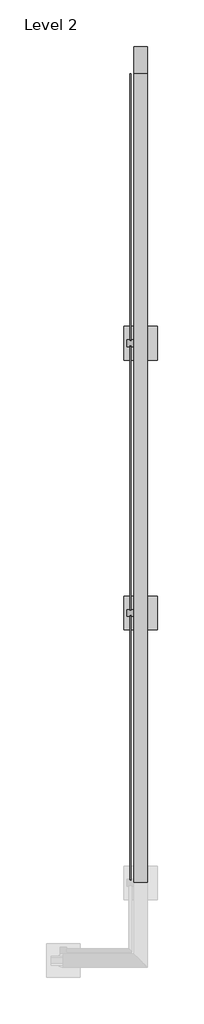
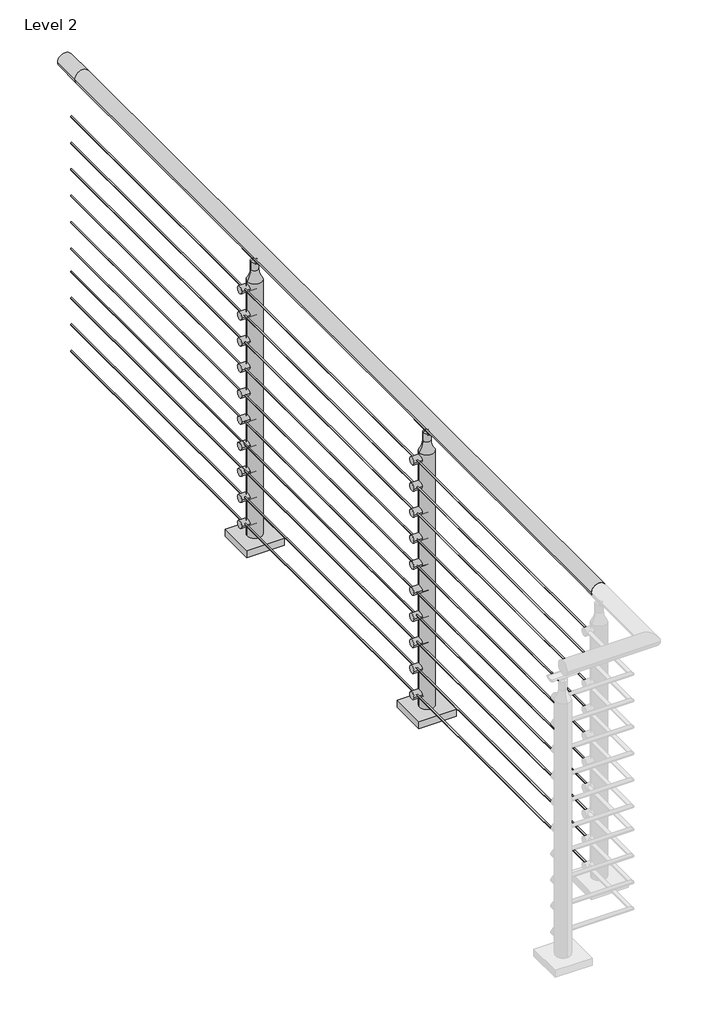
# One storey, part 5 of 21: 1 railing.
"""IFC4 building model written with IfcOpenShell, lengths in millimetres."""

from ifc_helpers import new_model, si_unit, point, frame, frame_2d, origin, place, context, project, spatial, polyline, circle_curve, ellipse_curve, trimmed, segment, composite_curve, outline, extrude, element, save
from ifc_brep_helpers import plane_surface, cylinder_surface, revolved_surface, advanced_brep

model = new_model("IFC4")

# Units and contexts
model_context = context("Model", 3, world=origin())
ifc_project = project(units=[si_unit("LENGTHUNIT", "METRE", prefix="MILLI")], contexts=[model_context])

# Site, building, storey
site = spatial("IfcSite", under=ifc_project)
building = spatial("IfcBuilding", under=site)
storey = spatial("IfcBuildingStorey", under=building, Name="Level 2", Elevation=3048.0)

# Railing
placement = place(None, origin())
element("IfcRailing", 1, ObjectType="VIVA-CIRCA-Multiline-Cable-Floor Mount-Straight", at=placement, inside=storey, context=model_context, shape_type="SolidModel", body=[
    advanced_brep(
    [(20840.5295521, -68412.8034511, 4102.1), (20789.7295521, -68412.8034511, 4102.1), (20840.5295521, -65364.8034511, 4102.1), (20789.7295521, -65364.8034511, 4102.1), (20840.5295521, -65263.2034511, 4102.1), (20789.7295521, -65263.2034511, 4102.1)],
    [
        (0, 1, circle_curve(frame((20815.1295521, -68412.8034511, 4102.1), z_axis=(0.0, -1.0, 0.0), x_axis=(-1.0, 0.0, 0.0)), 25.4)),
        (1, 0, circle_curve(frame((20815.1295521, -68412.8034511, 4102.1), z_axis=(0.0, -1.0, 0.0), x_axis=(-1.0, 0.0, 0.0)), 25.4)),
        (0, 2),
        (2, 3, circle_curve(frame((20815.1295521, -65364.8034511, 4102.1), z_axis=(0.0, -1.0, 0.0), x_axis=(-1.0, 0.0, 0.0)), 25.4)),
        (3, 1),
        (3, 2, circle_curve(frame((20815.1295521, -65364.8034511, 4102.1), z_axis=(0.0, -1.0, 0.0), x_axis=(-1.0, 0.0, 0.0)), 25.4)),
        (4, 5, circle_curve(frame((20815.1295521, -65263.2034511, 4102.1), z_axis=(0.0, 1.0, 0.0), x_axis=(-1.0, 0.0, 0.0)), 25.4)),
        (5, 4, circle_curve(frame((20815.1295521, -65263.2034511, 4102.1), z_axis=(0.0, 1.0, 0.0), x_axis=(-1.0, 0.0, 0.0)), 25.4)),
        (2, 4),
        (5, 3),
    ],
    [
        plane_surface(frame((20815.1295521, -68412.8034511, 4127.5), z_axis=(0.0, -1.0, 0.0), x_axis=(0.0, 0.0, 1.0))),
        cylinder_surface(frame((20815.1295521, -68412.8034511, 4102.1), z_axis=(0.0, -1.0, 0.0), x_axis=(-1.0, 0.0, 0.0)), 25.4),
        plane_surface(frame((20815.1295521, -65263.2034511, 4127.5), z_axis=(0.0, 1.0, 0.0), x_axis=(0.0, 0.0, 1.0))),
        cylinder_surface(frame((20815.1295521, -65364.8034511, 4102.1), z_axis=(0.0, -1.0, 0.0), x_axis=(-1.0, 0.0, 0.0)), 25.4),
    ],
    [
        (0, [[1, 2]]),
        (1, [[-1, 3, 4, 5]]),
        (1, [[-2, -5, 6, -3]]),
        (2, [[7, 8]]),
        (3, [[-4, 9, -8, 10]]),
        (3, [[-6, -10, -7, -9]]),
    ],
),
    extrude(outline(composite_curve([segment(trimmed(circle_curve(frame_2d((3972.7124, 20777.0295521)), 2.3876), [point((3972.7124, 20774.6419521))], [point((3972.7124, 20779.4171521))], False, "CARTESIAN"), True, "CONTINUOUS"), segment(trimmed(circle_curve(frame_2d((3972.7124, 20777.0295521)), 2.3876), [point((3972.7124, 20779.4171521))], [point((3972.7124, 20774.6419521))], False, "CARTESIAN"), True, "CONTINUOUS")], self_intersect=False)), frame((0.0, -68412.8034511, 0.0), z_axis=(0.0, 1.0, 0.0), x_axis=(0.0, 0.0, 1.0)), (0.0, 0.0, 1.0), 3048.0),
    extrude(outline(composite_curve([segment(trimmed(circle_curve(frame_2d((3877.4624, 20777.0295521)), 2.3876), [point((3877.4624, 20774.6419521))], [point((3877.4624, 20779.4171521))], False, "CARTESIAN"), True, "CONTINUOUS"), segment(trimmed(circle_curve(frame_2d((3877.4624, 20777.0295521)), 2.3876), [point((3877.4624, 20779.4171521))], [point((3877.4624, 20774.6419521))], False, "CARTESIAN"), True, "CONTINUOUS")], self_intersect=False)), frame((0.0, -68412.8034511, 0.0), z_axis=(0.0, 1.0, 0.0), x_axis=(0.0, 0.0, 1.0)), (0.0, 0.0, 1.0), 3048.0),
    extrude(outline(composite_curve([segment(trimmed(circle_curve(frame_2d((3782.2124, 20777.0295521)), 2.3876), [point((3782.2124, 20774.6419521))], [point((3782.2124, 20779.4171521))], False, "CARTESIAN"), True, "CONTINUOUS"), segment(trimmed(circle_curve(frame_2d((3782.2124, 20777.0295521)), 2.3876), [point((3782.2124, 20779.4171521))], [point((3782.2124, 20774.6419521))], False, "CARTESIAN"), True, "CONTINUOUS")], self_intersect=False)), frame((0.0, -68412.8034511, 0.0), z_axis=(0.0, 1.0, 0.0), x_axis=(0.0, 0.0, 1.0)), (0.0, 0.0, 1.0), 3048.0),
    extrude(outline(composite_curve([segment(trimmed(circle_curve(frame_2d((3686.9624, 20777.0295521)), 2.3876), [point((3686.9624, 20774.6419521))], [point((3686.9624, 20779.4171521))], False, "CARTESIAN"), True, "CONTINUOUS"), segment(trimmed(circle_curve(frame_2d((3686.9624, 20777.0295521)), 2.3876), [point((3686.9624, 20779.4171521))], [point((3686.9624, 20774.6419521))], False, "CARTESIAN"), True, "CONTINUOUS")], self_intersect=False)), frame((0.0, -68412.8034511, 0.0), z_axis=(0.0, 1.0, 0.0), x_axis=(0.0, 0.0, 1.0)), (0.0, 0.0, 1.0), 3048.0),
    extrude(outline(composite_curve([segment(trimmed(circle_curve(frame_2d((3591.7124, 20777.0295521)), 2.3876), [point((3591.7124, 20774.6419521))], [point((3591.7124, 20779.4171521))], False, "CARTESIAN"), True, "CONTINUOUS"), segment(trimmed(circle_curve(frame_2d((3591.7124, 20777.0295521)), 2.3876), [point((3591.7124, 20779.4171521))], [point((3591.7124, 20774.6419521))], False, "CARTESIAN"), True, "CONTINUOUS")], self_intersect=False)), frame((0.0, -68412.8034511, 0.0), z_axis=(0.0, 1.0, 0.0), x_axis=(0.0, 0.0, 1.0)), (0.0, 0.0, 1.0), 3048.0),
    extrude(outline(composite_curve([segment(trimmed(circle_curve(frame_2d((3496.4624, 20777.0295521)), 2.3876), [point((3496.4624, 20774.6419521))], [point((3496.4624, 20779.4171521))], False, "CARTESIAN"), True, "CONTINUOUS"), segment(trimmed(circle_curve(frame_2d((3496.4624, 20777.0295521)), 2.3876), [point((3496.4624, 20779.4171521))], [point((3496.4624, 20774.6419521))], False, "CARTESIAN"), True, "CONTINUOUS")], self_intersect=False)), frame((0.0, -68412.8034511, 0.0), z_axis=(0.0, 1.0, 0.0), x_axis=(0.0, 0.0, 1.0)), (0.0, 0.0, 1.0), 3048.0),
    extrude(outline(composite_curve([segment(trimmed(circle_curve(frame_2d((3413.9124, 20777.0295521)), 2.3876), [point((3413.9124, 20774.6419521))], [point((3413.9124, 20779.4171521))], False, "CARTESIAN"), True, "CONTINUOUS"), segment(trimmed(circle_curve(frame_2d((3413.9124, 20777.0295521)), 2.3876), [point((3413.9124, 20779.4171521))], [point((3413.9124, 20774.6419521))], False, "CARTESIAN"), True, "CONTINUOUS")], self_intersect=False)), frame((0.0, -68412.8034511, 0.0), z_axis=(0.0, 1.0, 0.0), x_axis=(0.0, 0.0, 1.0)), (0.0, 0.0, 1.0), 3048.0),
    extrude(outline(composite_curve([segment(trimmed(circle_curve(frame_2d((3318.6624, 20777.0295521)), 2.3876), [point((3318.6624, 20774.6419521))], [point((3318.6624, 20779.4171521))], False, "CARTESIAN"), True, "CONTINUOUS"), segment(trimmed(circle_curve(frame_2d((3318.6624, 20777.0295521)), 2.3876), [point((3318.6624, 20779.4171521))], [point((3318.6624, 20774.6419521))], False, "CARTESIAN"), True, "CONTINUOUS")], self_intersect=False)), frame((0.0, -68412.8034511, 0.0), z_axis=(0.0, 1.0, 0.0), x_axis=(0.0, 0.0, 1.0)), (0.0, 0.0, 1.0), 3048.0),
    extrude(outline(composite_curve([segment(trimmed(circle_curve(frame_2d((3223.4124, 20777.0295521)), 2.3876), [point((3223.4124, 20774.6419521))], [point((3223.4124, 20779.4171521))], False, "CARTESIAN"), True, "CONTINUOUS"), segment(trimmed(circle_curve(frame_2d((3223.4124, 20777.0295521)), 2.3876), [point((3223.4124, 20779.4171521))], [point((3223.4124, 20774.6419521))], False, "CARTESIAN"), True, "CONTINUOUS")], self_intersect=False)), frame((0.0, -68412.8034511, 0.0), z_axis=(0.0, 1.0, 0.0), x_axis=(0.0, 0.0, 1.0)), (0.0, 0.0, 1.0), 3048.0),
    extrude(outline(composite_curve([segment(trimmed(circle_curve(frame_2d((3128.1624, 20777.0295521)), 2.3876), [point((3128.1624, 20774.6419521))], [point((3128.1624, 20779.4171521))], False, "CARTESIAN"), True, "CONTINUOUS"), segment(trimmed(circle_curve(frame_2d((3128.1624, 20777.0295521)), 2.3876), [point((3128.1624, 20779.4171521))], [point((3128.1624, 20774.6419521))], False, "CARTESIAN"), True, "CONTINUOUS")], self_intersect=False)), frame((0.0, -68412.8034511, 0.0), z_axis=(0.0, 1.0, 0.0), x_axis=(0.0, 0.0, 1.0)), (0.0, 0.0, 1.0), 3048.0),
    extrude(outline(composite_curve([segment(trimmed(circle_curve(frame_2d((-66380.0097011, 3124.2)), 12.666458), [point((-66367.3432432, 3124.2))], [point((-66392.6761591, 3124.2))], False, "CARTESIAN"), True, "CONTINUOUS"), segment(trimmed(circle_curve(frame_2d((-66380.0097011, 3124.2)), 12.666458), [point((-66392.6761591, 3124.2))], [point((-66367.3432432, 3124.2))], False, "CARTESIAN"), True, "CONTINUOUS")], self_intersect=False)), frame((20764.3295521, 0.0, 0.0), z_axis=(1.0, 0.0, 0.0), x_axis=(0.0, 1.0, 0.0)), (0.0, 0.0, 1.0), 50.8),
    extrude(outline(composite_curve([segment(trimmed(circle_curve(frame_2d((-66380.0097011, 3218.0388889)), 12.666458), [point((-66367.3432432, 3218.0388889))], [point((-66392.6761591, 3218.0388889))], False, "CARTESIAN"), True, "CONTINUOUS"), segment(trimmed(circle_curve(frame_2d((-66380.0097011, 3218.0388889)), 12.666458), [point((-66392.6761591, 3218.0388889))], [point((-66367.3432432, 3218.0388889))], False, "CARTESIAN"), True, "CONTINUOUS")], self_intersect=False)), frame((20764.3295521, 0.0, 0.0), z_axis=(1.0, 0.0, 0.0), x_axis=(0.0, 1.0, 0.0)), (0.0, 0.0, 1.0), 50.8),
    extrude(outline(composite_curve([segment(trimmed(circle_curve(frame_2d((-66380.0097011, 3311.8777778)), 12.666458), [point((-66367.3432432, 3311.8777778))], [point((-66392.6761591, 3311.8777778))], False, "CARTESIAN"), True, "CONTINUOUS"), segment(trimmed(circle_curve(frame_2d((-66380.0097011, 3311.8777778)), 12.666458), [point((-66392.6761591, 3311.8777778))], [point((-66367.3432432, 3311.8777778))], False, "CARTESIAN"), True, "CONTINUOUS")], self_intersect=False)), frame((20764.3295521, 0.0, 0.0), z_axis=(1.0, 0.0, 0.0), x_axis=(0.0, 1.0, 0.0)), (0.0, 0.0, 1.0), 50.8),
    extrude(outline(composite_curve([segment(trimmed(circle_curve(frame_2d((-66380.0097011, 3405.7166667)), 12.666458), [point((-66367.3432432, 3405.7166667))], [point((-66392.6761591, 3405.7166667))], False, "CARTESIAN"), True, "CONTINUOUS"), segment(trimmed(circle_curve(frame_2d((-66380.0097011, 3405.7166667)), 12.666458), [point((-66392.6761591, 3405.7166667))], [point((-66367.3432432, 3405.7166667))], False, "CARTESIAN"), True, "CONTINUOUS")], self_intersect=False)), frame((20764.3295521, 0.0, 0.0), z_axis=(1.0, 0.0, 0.0), x_axis=(0.0, 1.0, 0.0)), (0.0, 0.0, 1.0), 50.8),
    extrude(outline(composite_curve([segment(trimmed(circle_curve(frame_2d((-66380.0097011, 3499.5555556)), 12.666458), [point((-66367.3432432, 3499.5555556))], [point((-66392.6761591, 3499.5555556))], False, "CARTESIAN"), True, "CONTINUOUS"), segment(trimmed(circle_curve(frame_2d((-66380.0097011, 3499.5555556)), 12.666458), [point((-66392.6761591, 3499.5555556))], [point((-66367.3432432, 3499.5555556))], False, "CARTESIAN"), True, "CONTINUOUS")], self_intersect=False)), frame((20764.3295521, 0.0, 0.0), z_axis=(1.0, 0.0, 0.0), x_axis=(0.0, 1.0, 0.0)), (0.0, 0.0, 1.0), 50.8),
    extrude(outline(composite_curve([segment(trimmed(circle_curve(frame_2d((-66380.0097011, 3593.3944444)), 12.666458), [point((-66367.3432432, 3593.3944444))], [point((-66392.6761591, 3593.3944444))], False, "CARTESIAN"), True, "CONTINUOUS"), segment(trimmed(circle_curve(frame_2d((-66380.0097011, 3593.3944444)), 12.666458), [point((-66392.6761591, 3593.3944444))], [point((-66367.3432432, 3593.3944444))], False, "CARTESIAN"), True, "CONTINUOUS")], self_intersect=False)), frame((20764.3295521, 0.0, 0.0), z_axis=(1.0, 0.0, 0.0), x_axis=(0.0, 1.0, 0.0)), (0.0, 0.0, 1.0), 50.8),
    extrude(outline(composite_curve([segment(trimmed(circle_curve(frame_2d((-66380.0097011, 3687.2333333)), 12.666458), [point((-66367.3432432, 3687.2333333))], [point((-66392.6761591, 3687.2333333))], False, "CARTESIAN"), True, "CONTINUOUS"), segment(trimmed(circle_curve(frame_2d((-66380.0097011, 3687.2333333)), 12.666458), [point((-66392.6761591, 3687.2333333))], [point((-66367.3432432, 3687.2333333))], False, "CARTESIAN"), True, "CONTINUOUS")], self_intersect=False)), frame((20764.3295521, 0.0, 0.0), z_axis=(1.0, 0.0, 0.0), x_axis=(0.0, 1.0, 0.0)), (0.0, 0.0, 1.0), 50.8),
    extrude(outline(composite_curve([segment(trimmed(circle_curve(frame_2d((-66380.0097011, 3781.0722222)), 12.666458), [point((-66367.3432432, 3781.0722222))], [point((-66392.6761591, 3781.0722222))], False, "CARTESIAN"), True, "CONTINUOUS"), segment(trimmed(circle_curve(frame_2d((-66380.0097011, 3781.0722222)), 12.666458), [point((-66392.6761591, 3781.0722222))], [point((-66367.3432432, 3781.0722222))], False, "CARTESIAN"), True, "CONTINUOUS")], self_intersect=False)), frame((20764.3295521, 0.0, 0.0), z_axis=(1.0, 0.0, 0.0), x_axis=(0.0, 1.0, 0.0)), (0.0, 0.0, 1.0), 50.8),
    extrude(outline(composite_curve([segment(trimmed(circle_curve(frame_2d((-66380.0097011, 3968.75)), 12.666458), [point((-66367.3432432, 3968.75))], [point((-66392.6761591, 3968.75))], False, "CARTESIAN"), True, "CONTINUOUS"), segment(trimmed(circle_curve(frame_2d((-66380.0097011, 3968.75)), 12.666458), [point((-66392.6761591, 3968.75))], [point((-66367.3432432, 3968.75))], False, "CARTESIAN"), True, "CONTINUOUS")], self_intersect=False)), frame((20764.3295521, 0.0, 0.0), z_axis=(1.0, 0.0, 0.0), x_axis=(0.0, 1.0, 0.0)), (0.0, 0.0, 1.0), 50.8),
    extrude(outline(composite_curve([segment(trimmed(circle_curve(frame_2d((-66380.0097011, 3874.9111111)), 12.666458), [point((-66367.3432432, 3874.9111111))], [point((-66392.6761591, 3874.9111111))], False, "CARTESIAN"), True, "CONTINUOUS"), segment(trimmed(circle_curve(frame_2d((-66380.0097011, 3874.9111111)), 12.666458), [point((-66392.6761591, 3874.9111111))], [point((-66367.3432432, 3874.9111111))], False, "CARTESIAN"), True, "CONTINUOUS")], self_intersect=False)), frame((20764.3295521, 0.0, 0.0), z_axis=(1.0, 0.0, 0.0), x_axis=(0.0, 1.0, 0.0)), (0.0, 0.0, 1.0), 50.8),
    extrude(outline(composite_curve([segment(trimmed(circle_curve(frame_2d((4103.4254922, 20815.0328237)), 25.4345159), [point((4081.3106679, 20827.5966266))], [point((4081.2157471, 20802.63759))], True, "CARTESIAN"), True, "CONTINUOUS"), segment(trimmed(circle_curve(frame_2d((4078.7132623, 20801.3929369)), 2.7949225), [point((4081.2157471, 20802.63759))], [point((4076.3406769, 20799.9156318))], False, "CARTESIAN"), True, "CONTINUOUS"), segment(trimmed(circle_curve(frame_2d((4104.1881188, 20815.1662868)), 31.75), [point((4076.3406769, 20799.9156318))], [point((4076.9214354, 20831.4325241))], False, "CARTESIAN"), True, "CONTINUOUS"), segment(trimmed(circle_curve(frame_2d((4078.7923545, 20829.1441843)), 2.9558141), [point((4076.9214354, 20831.4325241))], [point((4081.3106679, 20827.5966266))], False, "CARTESIAN"), True, "CONTINUOUS")], self_intersect=False)), frame((0.0, -66425.6439761, 0.0), z_axis=(0.0, 1.0, 0.0), x_axis=(0.0, 0.0, 1.0)), (0.0, 0.0, 1.0), 90.4748),
    advanced_brep(
    [(20812.5895521, -66353.3386612, 4072.6506908), (20812.5895521, -66367.7065761, 4058.282776), (20812.5895521, -66393.1065761, 4058.282776), (20812.5895521, -66407.474491, 4072.6506908), (20817.6695521, -66353.3386612, 4072.6506908), (20817.6695521, -66407.474491, 4072.6506908), (20817.6695521, -66393.1065761, 4058.282776), (20817.6695521, -66367.7065761, 4058.282776)],
    [
        (0, 1, circle_curve(frame((20812.5895521, -66353.3386612, 4058.282776), z_axis=(1.0, 0.0, 0.0), x_axis=(0.0, -1.0, 0.0)), 14.3679149)),
        (1, 2, circle_curve(frame((20812.5895521, -66380.4065761, 4058.282776), z_axis=(-1.0, 0.0, 0.0), x_axis=(0.0, -1.0, 0.0)), 12.7)),
        (2, 3, circle_curve(frame((20812.5895521, -66407.474491, 4058.282776), z_axis=(1.0, 0.0, 0.0), x_axis=(0.0, -1.0, 0.0)), 14.3679149)),
        (3, 0),
        (4, 5),
        (5, 6, circle_curve(frame((20817.6695521, -66407.474491, 4058.282776), z_axis=(-1.0, 0.0, 0.0), x_axis=(0.0, -1.0, 0.0)), 14.3679149)),
        (6, 7, circle_curve(frame((20817.6695521, -66380.4065761, 4058.282776), z_axis=(1.0, 0.0, 0.0), x_axis=(0.0, -1.0, 0.0)), 12.7)),
        (7, 4, circle_curve(frame((20817.6695521, -66353.3386612, 4058.282776), z_axis=(-1.0, 0.0, 0.0), x_axis=(0.0, -1.0, 0.0)), 14.3679149)),
        (0, 4),
        (7, 1),
        (6, 2),
        (5, 3),
    ],
    [
        plane_surface(frame((20812.5895521, -66367.7065761, 4058.282776), z_axis=(-1.0, 0.0, 0.0), x_axis=(0.0, 0.0, -1.0))),
        plane_surface(frame((20817.6695521, -66367.7065761, 4058.282776), z_axis=(1.0, 0.0, 0.0), x_axis=(0.0, 0.0, 1.0))),
        revolved_surface(polyline([(20817.6695521, -66367.7065761, 4058.282776), (20812.5895521, -66367.7065761, 4058.282776)]), (20817.6695521, -66353.3386612, 4058.282776), (1.0, 0.0, 0.0)),
        cylinder_surface(frame((20817.6695521, -66380.4065761, 4058.282776), z_axis=(-1.0, 0.0, 0.0), x_axis=(0.0, -1.0, 0.0)), 12.7),
        revolved_surface(polyline([(20817.6695521, -66421.8424059, 4058.282776), (20812.5895521, -66421.8424059, 4058.282776)]), (20817.6695521, -66407.474491, 4058.282776), (1.0, 0.0, 0.0)),
        plane_surface(frame((20812.5895521, -66407.474491, 4072.6506908), z_axis=(0.0, 0.0, 1.0), x_axis=(1.0, 0.0, 0.0))),
    ],
    [
        (0, [[1, 2, 3, 4]]),
        (1, [[5, 6, 7, 8]]),
        (2, [[-1, 9, -8, 10]]),
        (3, [[-2, -10, -7, 11]]),
        (4, [[-3, -11, -6, 12]]),
        (5, [[-4, -12, -5, -9]]),
    ],
),
    extrude(outline(polyline([(20878.6295521, -66443.9065761), (20751.6295521, -66443.9065761), (20751.6295521, -66316.9065761), (20878.6295521, -66316.9065761), (20878.6295521, -66443.9065761)])), frame((0.0, 0.0, 3048.0), z_axis=(0.0, 0.0, 1.0), x_axis=(1.0, 0.0, 0.0)), (0.0, 0.0, 1.0), 25.4),
    advanced_brep(
    [(20840.5289499, -66380.4065761, 3989.1347854), (20789.7301543, -66380.4065761, 3989.1347854), (20789.7301543, -66380.4065761, 3073.4), (20840.5289499, -66380.4065761, 3073.4), (20827.8675207, -66380.4065761, 4027.3486202), (20802.3915836, -66380.4065761, 4027.3486202), (20827.8675207, -66380.4065761, 4056.5779599), (20802.3915836, -66380.4065761, 4056.5779599), (20815.1295521, -66380.4065761, 4063.238668), (20815.1295521, -66380.4065761, 3073.4)],
    [
        (0, 1, circle_curve(frame((20815.1295521, -66380.4065761, 3989.1347854), z_axis=(0.0, 0.0, -1.0), x_axis=(-1.0, 0.0, 0.0)), 25.3993978)),
        (1, 2),
        (2, 3, circle_curve(frame((20815.1295521, -66380.4065761, 3073.4), z_axis=(0.0, 0.0, 1.0), x_axis=(-1.0, 0.0, 0.0)), 25.3993978)),
        (3, 0),
        (1, 0, circle_curve(frame((20815.1295521, -66380.4065761, 3989.1347854), z_axis=(0.0, 0.0, -1.0), x_axis=(-1.0, 0.0, 0.0)), 25.3993978)),
        (3, 2, circle_curve(frame((20815.1295521, -66380.4065761, 3073.4), z_axis=(0.0, 0.0, 1.0), x_axis=(-1.0, 0.0, 0.0)), 25.3993978)),
        (4, 5, circle_curve(frame((20815.1295521, -66380.4065761, 4027.3486202), z_axis=(0.0, 0.0, -1.0), x_axis=(-1.0, 0.0, 0.0)), 12.7379685)),
        (5, 1, circle_curve(frame((20738.3937153, -66380.4065761, 4027.3486202), z_axis=(0.0, 1.0, 0.0), x_axis=(-1.0, 0.0, 0.0)), 63.9978683)),
        (0, 4, circle_curve(frame((20891.865389, -66380.4065761, 4027.3486202), z_axis=(0.0, 1.0, 0.0), x_axis=(1.0, 0.0, 0.0)), 63.9978683)),
        (5, 4, circle_curve(frame((20815.1295521, -66380.4065761, 4027.3486202), z_axis=(0.0, 0.0, -1.0), x_axis=(-1.0, 0.0, 0.0)), 12.7379685)),
        (6, 7, circle_curve(frame((20815.1295521, -66380.4065761, 4056.5779599), z_axis=(0.0, 0.0, -1.0), x_axis=(-1.0, 0.0, 0.0)), 12.7379685)),
        (7, 5),
        (4, 6),
        (7, 6, circle_curve(frame((20815.1295521, -66380.4065761, 4056.5779599), z_axis=(0.0, 0.0, -1.0), x_axis=(-1.0, 0.0, 0.0)), 12.7379685)),
        (8, 7, circle_curve(frame((20815.1295521, -66380.4065761, 4047.7282394), z_axis=(0.0, -1.0, 0.0), x_axis=(-1.0, 0.0, 0.0)), 15.5104286)),
        (6, 8, circle_curve(frame((20815.1295521, -66380.4065761, 4047.7282394), z_axis=(0.0, -1.0, 0.0), x_axis=(1.0, 0.0, 0.0)), 15.5104286)),
        (2, 9),
        (9, 3),
    ],
    [
        cylinder_surface(frame((20815.1295521, -66380.4065761, 4152.9), z_axis=(0.0, 0.0, 1.0), x_axis=(-1.0, 0.0, 0.0)), 25.3993978),
        revolved_surface(trimmed(ellipse_curve(frame((20738.3937153, -66380.4065761, 4027.3486202), z_axis=(0.0, -1.0, 0.0), x_axis=(-1.0, 0.0, 0.0)), 63.9978683, 63.9978683), [point((20789.7301543, -66380.4065761, 3989.1347854))], [point((20802.3915836, -66380.4065761, 4027.3486202))], True, "CARTESIAN"), (20815.1295521, -66380.4065761, 4152.9), (0.0, 0.0, 1.0)),
        cylinder_surface(frame((20815.1295521, -66380.4065761, 4152.9), z_axis=(0.0, 0.0, 1.0), x_axis=(-1.0, 0.0, 0.0)), 12.7379685),
        revolved_surface(trimmed(ellipse_curve(frame((20815.1295521, -66380.4065761, 4047.7282394), z_axis=(0.0, 1.0, 0.0), x_axis=(-1.0, 0.0, 0.0)), 15.5104286, 15.5104286), [point((20802.3915836, -66380.4065761, 4056.5779599))], [point((20815.1295521, -66380.4065761, 4063.238668))], True, "CARTESIAN"), (20815.1295521, -66380.4065761, 4152.9), (0.0, 0.0, 1.0)),
        plane_surface(frame((20815.1295521, -66380.4065761, 3073.4), z_axis=(0.0, 0.0, -1.0), x_axis=(-1.0, 0.0, 0.0))),
    ],
    [
        (0, [[1, 2, 3, 4]]),
        (0, [[5, -4, 6, -2]]),
        (1, [[7, 8, -1, 9]]),
        (1, [[10, -9, -5, -8]]),
        (2, [[11, 12, -7, 13]]),
        (2, [[14, -13, -10, -12]]),
        (3, [[15, -11, 16]]),
        (3, [[-16, -14, -15]]),
        (4, [[-3, 17, 18]]),
        (4, [[-6, -18, -17]]),
    ],
),
    extrude(outline(composite_curve([segment(trimmed(circle_curve(frame_2d((-67396.0097011, 3124.2)), 12.666458), [point((-67383.3432432, 3124.2))], [point((-67408.6761591, 3124.2))], False, "CARTESIAN"), True, "CONTINUOUS"), segment(trimmed(circle_curve(frame_2d((-67396.0097011, 3124.2)), 12.666458), [point((-67408.6761591, 3124.2))], [point((-67383.3432432, 3124.2))], False, "CARTESIAN"), True, "CONTINUOUS")], self_intersect=False)), frame((20764.3295521, 0.0, 0.0), z_axis=(1.0, 0.0, 0.0), x_axis=(0.0, 1.0, 0.0)), (0.0, 0.0, 1.0), 50.8),
    extrude(outline(composite_curve([segment(trimmed(circle_curve(frame_2d((-67396.0097011, 3218.0388889)), 12.666458), [point((-67383.3432432, 3218.0388889))], [point((-67408.6761591, 3218.0388889))], False, "CARTESIAN"), True, "CONTINUOUS"), segment(trimmed(circle_curve(frame_2d((-67396.0097011, 3218.0388889)), 12.666458), [point((-67408.6761591, 3218.0388889))], [point((-67383.3432432, 3218.0388889))], False, "CARTESIAN"), True, "CONTINUOUS")], self_intersect=False)), frame((20764.3295521, 0.0, 0.0), z_axis=(1.0, 0.0, 0.0), x_axis=(0.0, 1.0, 0.0)), (0.0, 0.0, 1.0), 50.8),
    extrude(outline(composite_curve([segment(trimmed(circle_curve(frame_2d((-67396.0097011, 3311.8777778)), 12.666458), [point((-67383.3432432, 3311.8777778))], [point((-67408.6761591, 3311.8777778))], False, "CARTESIAN"), True, "CONTINUOUS"), segment(trimmed(circle_curve(frame_2d((-67396.0097011, 3311.8777778)), 12.666458), [point((-67408.6761591, 3311.8777778))], [point((-67383.3432432, 3311.8777778))], False, "CARTESIAN"), True, "CONTINUOUS")], self_intersect=False)), frame((20764.3295521, 0.0, 0.0), z_axis=(1.0, 0.0, 0.0), x_axis=(0.0, 1.0, 0.0)), (0.0, 0.0, 1.0), 50.8),
    extrude(outline(composite_curve([segment(trimmed(circle_curve(frame_2d((-67396.0097011, 3405.7166667)), 12.666458), [point((-67383.3432432, 3405.7166667))], [point((-67408.6761591, 3405.7166667))], False, "CARTESIAN"), True, "CONTINUOUS"), segment(trimmed(circle_curve(frame_2d((-67396.0097011, 3405.7166667)), 12.666458), [point((-67408.6761591, 3405.7166667))], [point((-67383.3432432, 3405.7166667))], False, "CARTESIAN"), True, "CONTINUOUS")], self_intersect=False)), frame((20764.3295521, 0.0, 0.0), z_axis=(1.0, 0.0, 0.0), x_axis=(0.0, 1.0, 0.0)), (0.0, 0.0, 1.0), 50.8),
    extrude(outline(composite_curve([segment(trimmed(circle_curve(frame_2d((-67396.0097011, 3499.5555556)), 12.666458), [point((-67383.3432432, 3499.5555556))], [point((-67408.6761591, 3499.5555556))], False, "CARTESIAN"), True, "CONTINUOUS"), segment(trimmed(circle_curve(frame_2d((-67396.0097011, 3499.5555556)), 12.666458), [point((-67408.6761591, 3499.5555556))], [point((-67383.3432432, 3499.5555556))], False, "CARTESIAN"), True, "CONTINUOUS")], self_intersect=False)), frame((20764.3295521, 0.0, 0.0), z_axis=(1.0, 0.0, 0.0), x_axis=(0.0, 1.0, 0.0)), (0.0, 0.0, 1.0), 50.8),
    extrude(outline(composite_curve([segment(trimmed(circle_curve(frame_2d((-67396.0097011, 3593.3944444)), 12.666458), [point((-67383.3432432, 3593.3944444))], [point((-67408.6761591, 3593.3944444))], False, "CARTESIAN"), True, "CONTINUOUS"), segment(trimmed(circle_curve(frame_2d((-67396.0097011, 3593.3944444)), 12.666458), [point((-67408.6761591, 3593.3944444))], [point((-67383.3432432, 3593.3944444))], False, "CARTESIAN"), True, "CONTINUOUS")], self_intersect=False)), frame((20764.3295521, 0.0, 0.0), z_axis=(1.0, 0.0, 0.0), x_axis=(0.0, 1.0, 0.0)), (0.0, 0.0, 1.0), 50.8),
    extrude(outline(composite_curve([segment(trimmed(circle_curve(frame_2d((-67396.0097011, 3687.2333333)), 12.666458), [point((-67383.3432432, 3687.2333333))], [point((-67408.6761591, 3687.2333333))], False, "CARTESIAN"), True, "CONTINUOUS"), segment(trimmed(circle_curve(frame_2d((-67396.0097011, 3687.2333333)), 12.666458), [point((-67408.6761591, 3687.2333333))], [point((-67383.3432432, 3687.2333333))], False, "CARTESIAN"), True, "CONTINUOUS")], self_intersect=False)), frame((20764.3295521, 0.0, 0.0), z_axis=(1.0, 0.0, 0.0), x_axis=(0.0, 1.0, 0.0)), (0.0, 0.0, 1.0), 50.8),
    extrude(outline(composite_curve([segment(trimmed(circle_curve(frame_2d((-67396.0097011, 3781.0722222)), 12.666458), [point((-67383.3432432, 3781.0722222))], [point((-67408.6761591, 3781.0722222))], False, "CARTESIAN"), True, "CONTINUOUS"), segment(trimmed(circle_curve(frame_2d((-67396.0097011, 3781.0722222)), 12.666458), [point((-67408.6761591, 3781.0722222))], [point((-67383.3432432, 3781.0722222))], False, "CARTESIAN"), True, "CONTINUOUS")], self_intersect=False)), frame((20764.3295521, 0.0, 0.0), z_axis=(1.0, 0.0, 0.0), x_axis=(0.0, 1.0, 0.0)), (0.0, 0.0, 1.0), 50.8),
    extrude(outline(composite_curve([segment(trimmed(circle_curve(frame_2d((-67396.0097011, 3968.75)), 12.666458), [point((-67383.3432432, 3968.75))], [point((-67408.6761591, 3968.75))], False, "CARTESIAN"), True, "CONTINUOUS"), segment(trimmed(circle_curve(frame_2d((-67396.0097011, 3968.75)), 12.666458), [point((-67408.6761591, 3968.75))], [point((-67383.3432432, 3968.75))], False, "CARTESIAN"), True, "CONTINUOUS")], self_intersect=False)), frame((20764.3295521, 0.0, 0.0), z_axis=(1.0, 0.0, 0.0), x_axis=(0.0, 1.0, 0.0)), (0.0, 0.0, 1.0), 50.8),
    extrude(outline(composite_curve([segment(trimmed(circle_curve(frame_2d((-67396.0097011, 3874.9111111)), 12.666458), [point((-67383.3432432, 3874.9111111))], [point((-67408.6761591, 3874.9111111))], False, "CARTESIAN"), True, "CONTINUOUS"), segment(trimmed(circle_curve(frame_2d((-67396.0097011, 3874.9111111)), 12.666458), [point((-67408.6761591, 3874.9111111))], [point((-67383.3432432, 3874.9111111))], False, "CARTESIAN"), True, "CONTINUOUS")], self_intersect=False)), frame((20764.3295521, 0.0, 0.0), z_axis=(1.0, 0.0, 0.0), x_axis=(0.0, 1.0, 0.0)), (0.0, 0.0, 1.0), 50.8),
    extrude(outline(composite_curve([segment(trimmed(circle_curve(frame_2d((4103.4254922, 20815.0328237)), 25.4345159), [point((4081.3106679, 20827.5966266))], [point((4081.2157471, 20802.63759))], True, "CARTESIAN"), True, "CONTINUOUS"), segment(trimmed(circle_curve(frame_2d((4078.7132623, 20801.3929369)), 2.7949225), [point((4081.2157471, 20802.63759))], [point((4076.3406769, 20799.9156318))], False, "CARTESIAN"), True, "CONTINUOUS"), segment(trimmed(circle_curve(frame_2d((4104.1881188, 20815.1662868)), 31.75), [point((4076.3406769, 20799.9156318))], [point((4076.9214354, 20831.4325241))], False, "CARTESIAN"), True, "CONTINUOUS"), segment(trimmed(circle_curve(frame_2d((4078.7923545, 20829.1441843)), 2.9558141), [point((4076.9214354, 20831.4325241))], [point((4081.3106679, 20827.5966266))], False, "CARTESIAN"), True, "CONTINUOUS")], self_intersect=False)), frame((0.0, -67441.6439761, 0.0), z_axis=(0.0, 1.0, 0.0), x_axis=(0.0, 0.0, 1.0)), (0.0, 0.0, 1.0), 90.4748),
    advanced_brep(
    [(20812.5895521, -67369.3386612, 4072.6506908), (20812.5895521, -67383.7065761, 4058.282776), (20812.5895521, -67409.1065761, 4058.282776), (20812.5895521, -67423.474491, 4072.6506908), (20817.6695521, -67369.3386612, 4072.6506908), (20817.6695521, -67423.474491, 4072.6506908), (20817.6695521, -67409.1065761, 4058.282776), (20817.6695521, -67383.7065761, 4058.282776)],
    [
        (0, 1, circle_curve(frame((20812.5895521, -67369.3386612, 4058.282776), z_axis=(1.0, 0.0, 0.0), x_axis=(0.0, -1.0, 0.0)), 14.3679149)),
        (1, 2, circle_curve(frame((20812.5895521, -67396.4065761, 4058.282776), z_axis=(-1.0, 0.0, 0.0), x_axis=(0.0, -1.0, 0.0)), 12.7)),
        (2, 3, circle_curve(frame((20812.5895521, -67423.474491, 4058.282776), z_axis=(1.0, 0.0, 0.0), x_axis=(0.0, -1.0, 0.0)), 14.3679149)),
        (3, 0),
        (4, 5),
        (5, 6, circle_curve(frame((20817.6695521, -67423.474491, 4058.282776), z_axis=(-1.0, 0.0, 0.0), x_axis=(0.0, -1.0, 0.0)), 14.3679149)),
        (6, 7, circle_curve(frame((20817.6695521, -67396.4065761, 4058.282776), z_axis=(1.0, 0.0, 0.0), x_axis=(0.0, -1.0, 0.0)), 12.7)),
        (7, 4, circle_curve(frame((20817.6695521, -67369.3386612, 4058.282776), z_axis=(-1.0, 0.0, 0.0), x_axis=(0.0, -1.0, 0.0)), 14.3679149)),
        (0, 4),
        (7, 1),
        (6, 2),
        (5, 3),
    ],
    [
        plane_surface(frame((20812.5895521, -67383.7065761, 4058.282776), z_axis=(-1.0, 0.0, 0.0), x_axis=(0.0, 0.0, -1.0))),
        plane_surface(frame((20817.6695521, -67383.7065761, 4058.282776), z_axis=(1.0, 0.0, 0.0), x_axis=(0.0, 0.0, 1.0))),
        revolved_surface(polyline([(20817.6695521, -67383.7065761, 4058.282776), (20812.5895521, -67383.7065761, 4058.282776)]), (20817.6695521, -67369.3386612, 4058.282776), (1.0, 0.0, 0.0)),
        cylinder_surface(frame((20817.6695521, -67396.4065761, 4058.282776), z_axis=(-1.0, 0.0, 0.0), x_axis=(0.0, -1.0, 0.0)), 12.7),
        revolved_surface(polyline([(20817.6695521, -67437.8424059, 4058.282776), (20812.5895521, -67437.8424059, 4058.282776)]), (20817.6695521, -67423.474491, 4058.282776), (1.0, 0.0, 0.0)),
        plane_surface(frame((20812.5895521, -67423.474491, 4072.6506908), z_axis=(0.0, 0.0, 1.0), x_axis=(1.0, 0.0, 0.0))),
    ],
    [
        (0, [[1, 2, 3, 4]]),
        (1, [[5, 6, 7, 8]]),
        (2, [[-1, 9, -8, 10]]),
        (3, [[-2, -10, -7, 11]]),
        (4, [[-3, -11, -6, 12]]),
        (5, [[-4, -12, -5, -9]]),
    ],
),
    extrude(outline(polyline([(20878.6295521, -67459.9065761), (20751.6295521, -67459.9065761), (20751.6295521, -67332.9065761), (20878.6295521, -67332.9065761), (20878.6295521, -67459.9065761)])), frame((0.0, 0.0, 3048.0), z_axis=(0.0, 0.0, 1.0), x_axis=(1.0, 0.0, 0.0)), (0.0, 0.0, 1.0), 25.4),
    advanced_brep(
    [(20840.5289499, -67396.4065761, 3989.1347854), (20789.7301543, -67396.4065761, 3989.1347854), (20789.7301543, -67396.4065761, 3073.4), (20840.5289499, -67396.4065761, 3073.4), (20827.8675207, -67396.4065761, 4027.3486202), (20802.3915836, -67396.4065761, 4027.3486202), (20827.8675207, -67396.4065761, 4056.5779599), (20802.3915836, -67396.4065761, 4056.5779599), (20815.1295521, -67396.4065761, 4063.238668), (20815.1295521, -67396.4065761, 3073.4)],
    [
        (0, 1, circle_curve(frame((20815.1295521, -67396.4065761, 3989.1347854), z_axis=(0.0, 0.0, -1.0), x_axis=(-1.0, 0.0, 0.0)), 25.3993978)),
        (1, 2),
        (2, 3, circle_curve(frame((20815.1295521, -67396.4065761, 3073.4), z_axis=(0.0, 0.0, 1.0), x_axis=(-1.0, 0.0, 0.0)), 25.3993978)),
        (3, 0),
        (1, 0, circle_curve(frame((20815.1295521, -67396.4065761, 3989.1347854), z_axis=(0.0, 0.0, -1.0), x_axis=(-1.0, 0.0, 0.0)), 25.3993978)),
        (3, 2, circle_curve(frame((20815.1295521, -67396.4065761, 3073.4), z_axis=(0.0, 0.0, 1.0), x_axis=(-1.0, 0.0, 0.0)), 25.3993978)),
        (4, 5, circle_curve(frame((20815.1295521, -67396.4065761, 4027.3486202), z_axis=(0.0, 0.0, -1.0), x_axis=(-1.0, 0.0, 0.0)), 12.7379685)),
        (5, 1, circle_curve(frame((20738.3937153, -67396.4065761, 4027.3486202), z_axis=(0.0, 1.0, 0.0), x_axis=(-1.0, 0.0, 0.0)), 63.9978683)),
        (0, 4, circle_curve(frame((20891.865389, -67396.4065761, 4027.3486202), z_axis=(0.0, 1.0, 0.0), x_axis=(1.0, 0.0, 0.0)), 63.9978683)),
        (5, 4, circle_curve(frame((20815.1295521, -67396.4065761, 4027.3486202), z_axis=(0.0, 0.0, -1.0), x_axis=(-1.0, 0.0, 0.0)), 12.7379685)),
        (6, 7, circle_curve(frame((20815.1295521, -67396.4065761, 4056.5779599), z_axis=(0.0, 0.0, -1.0), x_axis=(-1.0, 0.0, 0.0)), 12.7379685)),
        (7, 5),
        (4, 6),
        (7, 6, circle_curve(frame((20815.1295521, -67396.4065761, 4056.5779599), z_axis=(0.0, 0.0, -1.0), x_axis=(-1.0, 0.0, 0.0)), 12.7379685)),
        (8, 7, circle_curve(frame((20815.1295521, -67396.4065761, 4047.7282394), z_axis=(0.0, -1.0, 0.0), x_axis=(-1.0, 0.0, 0.0)), 15.5104286)),
        (6, 8, circle_curve(frame((20815.1295521, -67396.4065761, 4047.7282394), z_axis=(0.0, -1.0, 0.0), x_axis=(1.0, 0.0, 0.0)), 15.5104286)),
        (2, 9),
        (9, 3),
    ],
    [
        cylinder_surface(frame((20815.1295521, -67396.4065761, 4152.9), z_axis=(0.0, 0.0, 1.0), x_axis=(-1.0, 0.0, 0.0)), 25.3993978),
        revolved_surface(trimmed(ellipse_curve(frame((20738.3937153, -67396.4065761, 4027.3486202), z_axis=(0.0, -1.0, 0.0), x_axis=(-1.0, 0.0, 0.0)), 63.9978683, 63.9978683), [point((20789.7301543, -67396.4065761, 3989.1347854))], [point((20802.3915836, -67396.4065761, 4027.3486202))], True, "CARTESIAN"), (20815.1295521, -67396.4065761, 4152.9), (0.0, 0.0, 1.0)),
        cylinder_surface(frame((20815.1295521, -67396.4065761, 4152.9), z_axis=(0.0, 0.0, 1.0), x_axis=(-1.0, 0.0, 0.0)), 12.7379685),
        revolved_surface(trimmed(ellipse_curve(frame((20815.1295521, -67396.4065761, 4047.7282394), z_axis=(0.0, 1.0, 0.0), x_axis=(-1.0, 0.0, 0.0)), 15.5104286, 15.5104286), [point((20802.3915836, -67396.4065761, 4056.5779599))], [point((20815.1295521, -67396.4065761, 4063.238668))], True, "CARTESIAN"), (20815.1295521, -67396.4065761, 4152.9), (0.0, 0.0, 1.0)),
        plane_surface(frame((20815.1295521, -67396.4065761, 3073.4), z_axis=(0.0, 0.0, -1.0), x_axis=(-1.0, 0.0, 0.0))),
    ],
    [
        (0, [[1, 2, 3, 4]]),
        (0, [[5, -4, 6, -2]]),
        (1, [[7, 8, -1, 9]]),
        (1, [[10, -9, -5, -8]]),
        (2, [[11, 12, -7, 13]]),
        (2, [[14, -13, -10, -12]]),
        (3, [[15, -11, 16]]),
        (3, [[-16, -14, -15]]),
        (4, [[-3, 17, 18]]),
        (4, [[-6, -18, -17]]),
    ],
),
])

save(model, "model.ifc")
